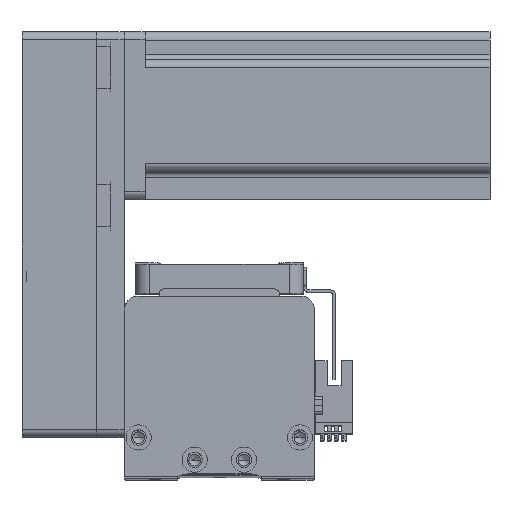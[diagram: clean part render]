
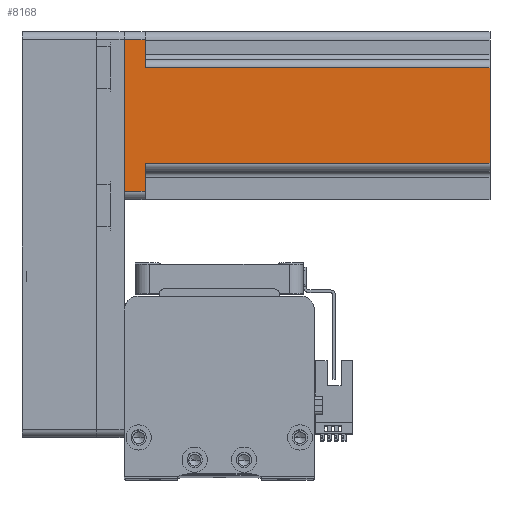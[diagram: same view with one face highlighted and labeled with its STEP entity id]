
A CAD part, top view. The second image highlights one B-rep face of the part: STEP entity #8168.
In plain terms, the highlighted planar face has unit normal (0, 0, 1) as drawn and (0, 1, 0) by its records, which use the part's own axes.
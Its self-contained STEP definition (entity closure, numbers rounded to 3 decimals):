
#6 = CARTESIAN_POINT ( 'NONE',  ( 27., 30., 130.7 ) ) ;
#196 = DIRECTION ( 'NONE',  ( 1., 0., 0. ) ) ;
#388 = LINE ( 'NONE', #23029, #42239 ) ;
#1774 = CARTESIAN_POINT ( 'NONE',  ( 17., 30., 130.7 ) ) ;
#1875 = CARTESIAN_POINT ( 'NONE',  ( -27., 30., 7.5 ) ) ;
#2559 = CARTESIAN_POINT ( 'NONE',  ( 27., 30., 0. ) ) ;
#2578 = CARTESIAN_POINT ( 'NONE',  ( -27., 30., 130.7 ) ) ;
#3311 = DIRECTION ( 'NONE',  ( 0., 0., -1. ) ) ;
#3553 = LINE ( 'NONE', #2578, #28905 ) ;
#6090 = CARTESIAN_POINT ( 'NONE',  ( 17., 30., 7.5 ) ) ;
#6513 = DIRECTION ( 'NONE',  ( 0., 0., -1. ) ) ;
#6588 = ORIENTED_EDGE ( 'NONE', *, *, #24755, .F. ) ;
#6676 = EDGE_CURVE ( 'NONE', #39621, #18046, #17796, .T. ) ;
#6761 = CARTESIAN_POINT ( 'NONE',  ( 20., 30., 7.5 ) ) ;
#6845 = VERTEX_POINT ( 'NONE', #10347 ) ;
#7177 = EDGE_CURVE ( 'NONE', #16859, #10737, #22408, .T. ) ;
#8168 = ADVANCED_FACE ( 'NONE', ( #40432 ), #19904, .F. ) ;
#8569 = DIRECTION ( 'NONE',  ( 1., 0., 0. ) ) ;
#9173 = VERTEX_POINT ( 'NONE', #2559 ) ;
#10347 = CARTESIAN_POINT ( 'NONE',  ( -27., 30., 0. ) ) ;
#10737 = VERTEX_POINT ( 'NONE', #13389 ) ;
#12654 = VECTOR ( 'NONE', #3311, 1000. ) ;
#13260 = DIRECTION ( 'NONE',  ( -1., 0., 0. ) ) ;
#13389 = CARTESIAN_POINT ( 'NONE',  ( -17., 30., 7.5 ) ) ;
#16859 = VERTEX_POINT ( 'NONE', #1875 ) ;
#17071 = CARTESIAN_POINT ( 'NONE',  ( -17., 30., 130.7 ) ) ;
#17318 = ORIENTED_EDGE ( 'NONE', *, *, #27033, .T. ) ;
#17796 = LINE ( 'NONE', #18932, #26582 ) ;
#17922 = ORIENTED_EDGE ( 'NONE', *, *, #20243, .T. ) ;
#18046 = VERTEX_POINT ( 'NONE', #17071 ) ;
#18810 = EDGE_CURVE ( 'NONE', #9173, #6845, #38777, .T. ) ;
#18932 = CARTESIAN_POINT ( 'NONE',  ( 30., 30., 130.7 ) ) ;
#18982 = VERTEX_POINT ( 'NONE', #6090 ) ;
#19098 = DIRECTION ( 'NONE',  ( 0., 0., 1. ) ) ;
#19261 = LINE ( 'NONE', #6761, #36829 ) ;
#19904 = PLANE ( 'NONE',  #37639 ) ;
#20054 = DIRECTION ( 'NONE',  ( 0., -1., 0. ) ) ;
#20243 = EDGE_CURVE ( 'NONE', #10737, #18046, #34840, .T. ) ;
#21753 = CARTESIAN_POINT ( 'NONE',  ( 30., 30., 0. ) ) ;
#22408 = LINE ( 'NONE', #28410, #30147 ) ;
#22499 = EDGE_CURVE ( 'NONE', #39621, #18982, #388, .T. ) ;
#22998 = ORIENTED_EDGE ( 'NONE', *, *, #33733, .T. ) ;
#23029 = CARTESIAN_POINT ( 'NONE',  ( 17., 30., 130.7 ) ) ;
#24755 = EDGE_CURVE ( 'NONE', #29718, #18982, #19261, .T. ) ;
#24823 = ORIENTED_EDGE ( 'NONE', *, *, #6676, .F. ) ;
#26076 = VECTOR ( 'NONE', #33896, 1000. ) ;
#26582 = VECTOR ( 'NONE', #38722, 1000. ) ;
#27033 = EDGE_CURVE ( 'NONE', #29718, #9173, #31307, .T. ) ;
#28410 = CARTESIAN_POINT ( 'NONE',  ( -20., 30., 7.5 ) ) ;
#28905 = VECTOR ( 'NONE', #19098, 1000. ) ;
#28925 = VECTOR ( 'NONE', #35011, 1000. ) ;
#29718 = VERTEX_POINT ( 'NONE', #35030 ) ;
#30147 = VECTOR ( 'NONE', #8569, 1000. ) ;
#31307 = LINE ( 'NONE', #6, #12654 ) ;
#32514 = EDGE_LOOP ( 'NONE', ( #41499, #17922, #24823, #35836, #6588, #17318, #33992, #22998 ) ) ;
#33733 = EDGE_CURVE ( 'NONE', #6845, #16859, #3553, .T. ) ;
#33761 = CARTESIAN_POINT ( 'NONE',  ( -17., 30., 130.7 ) ) ;
#33896 = DIRECTION ( 'NONE',  ( 0., 0., 1. ) ) ;
#33992 = ORIENTED_EDGE ( 'NONE', *, *, #18810, .T. ) ;
#34840 = LINE ( 'NONE', #33761, #26076 ) ;
#35011 = DIRECTION ( 'NONE',  ( -1., 0., 0. ) ) ;
#35030 = CARTESIAN_POINT ( 'NONE',  ( 27., 30., 7.5 ) ) ;
#35836 = ORIENTED_EDGE ( 'NONE', *, *, #22499, .T. ) ;
#36829 = VECTOR ( 'NONE', #13260, 1000. ) ;
#37639 = AXIS2_PLACEMENT_3D ( 'NONE', #39832, #20054, #196 ) ;
#38722 = DIRECTION ( 'NONE',  ( -1., 0., 0. ) ) ;
#38777 = LINE ( 'NONE', #21753, #28925 ) ;
#39621 = VERTEX_POINT ( 'NONE', #1774 ) ;
#39832 = CARTESIAN_POINT ( 'NONE',  ( 30., 30., 130.7 ) ) ;
#40432 = FACE_OUTER_BOUND ( 'NONE', #32514, .T. ) ;
#41499 = ORIENTED_EDGE ( 'NONE', *, *, #7177, .T. ) ;
#42239 = VECTOR ( 'NONE', #6513, 1000. ) ;
